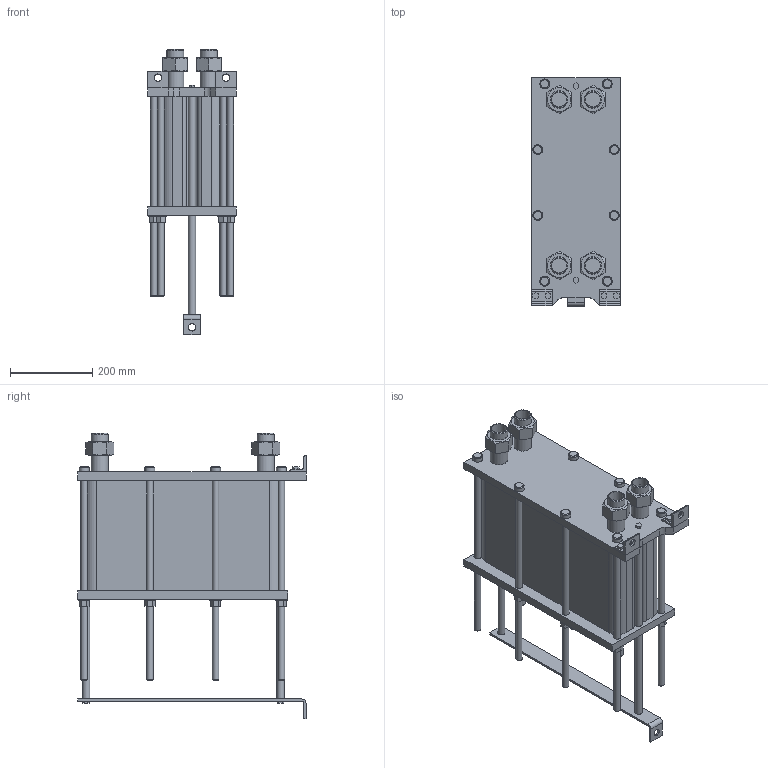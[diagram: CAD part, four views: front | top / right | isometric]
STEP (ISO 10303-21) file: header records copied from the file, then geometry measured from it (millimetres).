
FILE_DESCRIPTION(/* description */ (''),/* implementation_level */ '2;1');
FILE_NAME(/* name */ 'C:\Users\zhuro\Desktop\ENCO\TO\ЭН-004\ЭН-0,5-004-87-1.stp',/* time_stamp */ '2022-06-06T10:50:56+03:00',/* author */ ('zhuro'),/* organization */ (''),/* preprocessor_version */ 'ST-DEVELOPER v18.1',/* originating_system */ 'Autodesk Inventor 2022',/* authorisation */ '');
FILE_SCHEMA (('AUTOMOTIVE_DESIGN { 1 0 10303 214 3 1 1 }'));
Length unit declared in the file: millimetre
Products named in the file (1): ЭН-0,5-004-87-1
Bounding box: 216 x 555 x 694.6 mm (x, y, z)
Volume: 25935362.5 mm3; surface area: 1542719.9 mm2
Topology: 40 solids, 40 shells, 403 faces, 865 edges, 574 vertices
Faces by surface type: plane 272, cylinder 103, cone 28
Full cylindrical faces by diameter (mm): 10 x4, 16 x16, 18 x29, 20 x2, 24 x8, 28 x8, 36.3 x5, 42.3 x9
Entity records: 11137 total; most frequent: CARTESIAN_POINT 1939, DIRECTION 1879, ORIENTED_EDGE 1730, EDGE_CURVE 865, AXIS2_PLACEMENT_3D 658, VERTEX_POINT 574, LINE 563, VECTOR 563
